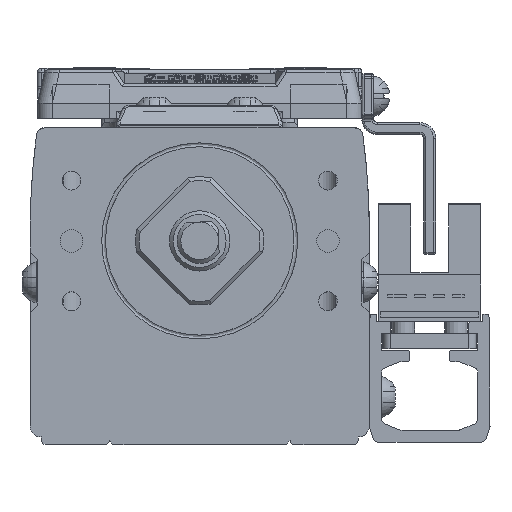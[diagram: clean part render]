
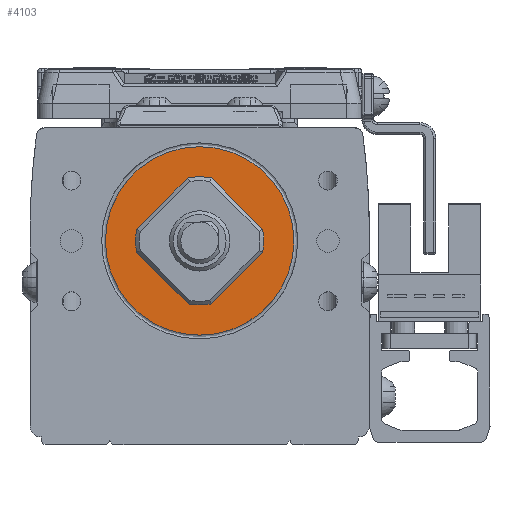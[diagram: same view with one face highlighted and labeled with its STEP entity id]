
A CAD part, left-side view. The second image highlights one B-rep face of the part: STEP entity #4103.
In plain terms, the highlighted planar face has unit normal (-1, 0, 0) as drawn and (0, 0, 1) by its records, which use the part's own axes.
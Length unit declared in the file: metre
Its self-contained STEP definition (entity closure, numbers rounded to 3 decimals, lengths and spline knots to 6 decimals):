
#4103=ADVANCED_FACE('',(#9009,#9010),#9011,.T.);
#9009=FACE_OUTER_BOUND('',#16707,.T.);
#9010=FACE_BOUND('',#16708,.T.);
#9011=PLANE('',#16709);
#16707=EDGE_LOOP('',(#27621));
#16708=EDGE_LOOP('',(#27622));
#16709=AXIS2_PLACEMENT_3D('',#27623,#27624,#27625);
#27621=ORIENTED_EDGE('',*,*,#42615,.T.);
#27622=ORIENTED_EDGE('',*,*,#42616,.F.);
#27623=CARTESIAN_POINT('',(0.000046,-0.005386,0.018));
#27624=DIRECTION('',(0.0,0.0,1.0));
#27625=DIRECTION('',(1.0,0.0,0.0));
#42615=EDGE_CURVE('',#50918,#50918,#50919,.T.);
#42616=EDGE_CURVE('',#50920,#50920,#50921,.T.);
#50918=VERTEX_POINT('',#62764);
#50919=CIRCLE('',#62765,0.0125);
#50920=VERTEX_POINT('',#62766);
#50921=CIRCLE('',#62767,0.004);
#62764=CARTESIAN_POINT('',(-0.0125,0.,0.018));
#62765=AXIS2_PLACEMENT_3D('',#73937,#73938,#73939);
#62766=CARTESIAN_POINT('',(0.004,0.0,0.018));
#62767=AXIS2_PLACEMENT_3D('',#73940,#73941,#73942);
#73937=CARTESIAN_POINT('',(0.0,0.,0.018));
#73938=DIRECTION('',(0.0,0.0,1.0));
#73939=DIRECTION('',(1.0,0.0,0.0));
#73940=CARTESIAN_POINT('',(0.0,0.0,0.018));
#73941=DIRECTION('',(0.0,0.0,1.0));
#73942=DIRECTION('',(-1.0,0.0,0.0));
